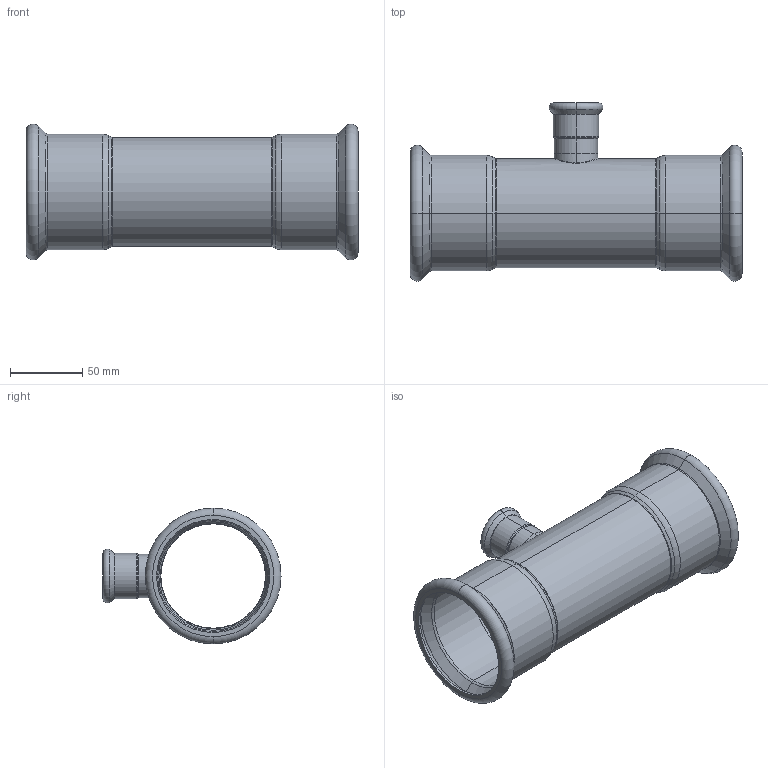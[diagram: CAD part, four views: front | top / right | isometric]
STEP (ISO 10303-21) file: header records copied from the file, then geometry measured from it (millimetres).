
FILE_DESCRIPTION (( 'STEP AP203' ), '1' );
FILE_NAME ('GDA5213.STEP', '2019-01-12T06:05:20', ( '' ), ( '' ), 'SwSTEP 2.0', 'SolidWorks 2015', '' );
FILE_SCHEMA (( 'CONFIG_CONTROL_DESIGN' ));
Length unit declared in the file: millimetre
Products named in the file (3): GDA5213; T(R)-¢ñ-76.1¡Á28''; T-ｉ-01-28
Assembly tree (2 placements, depth 2):
  GDA5213
    T(R)-¢ñ-76.1¡Á28''
    T-ｉ-01-28
Bounding box: 229 x 122.84 x 93.68 mm (x, y, z)
Volume: 94492.1 mm3; surface area: 126852.3 mm2
Topology: 2 solids, 2 shells, 114 faces, 234 edges, 128 vertices
Faces by surface type: torus 48, cylinder 30, cone 24, plane 8, bspline 4
Entity records: 4297 total; most frequent: CARTESIAN_POINT 1507, DIRECTION 620, ORIENTED_EDGE 468, AXIS2_PLACEMENT_3D 283, EDGE_CURVE 234, CIRCLE 168, VERTEX_POINT 128, EDGE_LOOP 124
